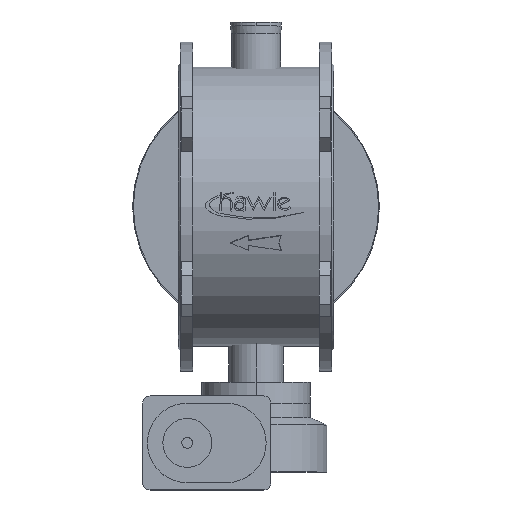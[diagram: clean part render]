
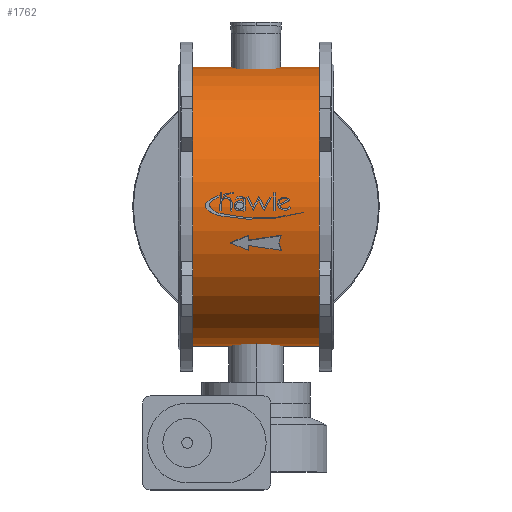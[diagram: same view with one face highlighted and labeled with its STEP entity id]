
A CAD part, top view. The second image highlights one B-rep face of the part: STEP entity #1762.
In plain terms, the highlighted cylindrical face has radius 386 mm (diameter 772 mm), a partial arc.
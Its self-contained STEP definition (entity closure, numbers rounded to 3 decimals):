
#1762=ADVANCED_FACE('',(#3374),#3375,.T.);
#3374=FACE_OUTER_BOUND('',#5171,.T.);
#3375=CYLINDRICAL_SURFACE('',#5172,386.0);
#5171=EDGE_LOOP('',(#8515,#8516,#8517,#8518));
#5172=AXIS2_PLACEMENT_3D('',#8519,#8520,#8521);
#8515=ORIENTED_EDGE('',*,*,#10588,.T.);
#8516=ORIENTED_EDGE('',*,*,#10310,.T.);
#8517=ORIENTED_EDGE('',*,*,#10589,.T.);
#8518=ORIENTED_EDGE('',*,*,#10221,.T.);
#8519=CARTESIAN_POINT('',(-390.5,0.,0.0));
#8520=DIRECTION('',(1.0,0.,0.0));
#8521=DIRECTION('',(0.,-1.0,0.0));
#10221=EDGE_CURVE('',#12248,#12247,#12250,.T.);
#10310=EDGE_CURVE('',#12372,#12373,#12374,.T.);
#10588=EDGE_CURVE('',#12247,#12372,#12753,.T.);
#10589=EDGE_CURVE('',#12373,#12248,#12754,.T.);
#12247=VERTEX_POINT('',#14809);
#12248=VERTEX_POINT('',#14810);
#12250=CIRCLE('',#14812,386.0);
#12372=VERTEX_POINT('',#14969);
#12373=VERTEX_POINT('',#14970);
#12374=CIRCLE('',#14971,386.0);
#12753=LINE('',#15426,#15427);
#12754=LINE('',#15428,#15429);
#14809=CARTESIAN_POINT('',(-390.5,-386.0,0.0));
#14810=CARTESIAN_POINT('',(-390.5,386.0,0.));
#14812=AXIS2_PLACEMENT_3D('',#17041,#17042,#17043);
#14969=CARTESIAN_POINT('',(-39.5,-386.0,0.0));
#14970=CARTESIAN_POINT('',(-39.5,386.0,0.));
#14971=AXIS2_PLACEMENT_3D('',#17151,#17152,#17153);
#15426=CARTESIAN_POINT('',(-390.5,-386.0,0.));
#15427=VECTOR('',#17593,1.0);
#15428=CARTESIAN_POINT('',(-390.5,386.0,0.));
#15429=VECTOR('',#17594,1.0);
#17041=CARTESIAN_POINT('',(-390.5,0.,0.0));
#17042=DIRECTION('',(1.0,0.,0.0));
#17043=DIRECTION('',(0.,-1.0,0.0));
#17151=CARTESIAN_POINT('',(-39.5,0.,0.0));
#17152=DIRECTION('',(-1.0,0.,0.0));
#17153=DIRECTION('',(0.,-1.0,0.0));
#17593=DIRECTION('',(1.0,0.,0.0));
#17594=DIRECTION('',(-1.0,0.,-0.0));
